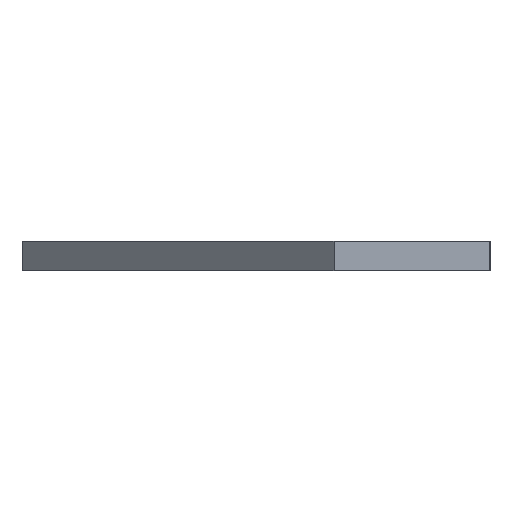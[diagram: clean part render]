
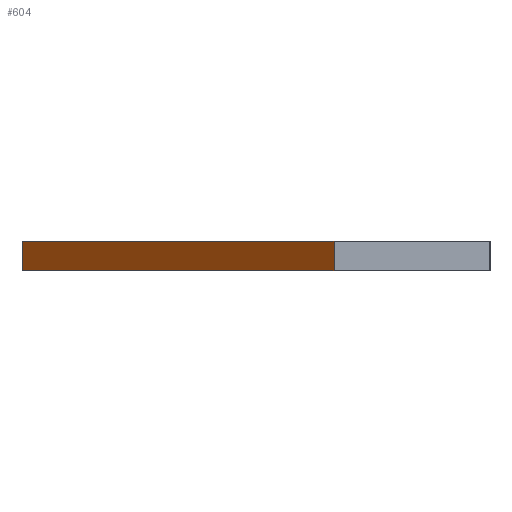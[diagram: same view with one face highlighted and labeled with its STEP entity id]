
A CAD part, left-side view. The second image highlights one B-rep face of the part: STEP entity #604.
In plain terms, the highlighted planar face has unit normal (-0.707, 0.707, 0).
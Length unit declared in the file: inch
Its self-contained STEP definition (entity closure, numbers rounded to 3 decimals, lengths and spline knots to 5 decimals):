
#7 = DIRECTION ( 'NONE',  ( 0.707, 0.707, 0. ) ) ;
#30 = CARTESIAN_POINT ( 'NONE',  ( 0.68616, 3.81382, 0. ) ) ;
#49 = ORIENTED_EDGE ( 'NONE', *, *, #719, .T. ) ;
#64 = CARTESIAN_POINT ( 'NONE',  ( 0.68616, 3.81382, 0.375 ) ) ;
#78 = DIRECTION ( 'NONE',  ( -0.707, -0.707, 0. ) ) ;
#79 = VERTEX_POINT ( 'NONE', #763 ) ;
#97 = CARTESIAN_POINT ( 'NONE',  ( -3.31384, -0.18618, 0. ) ) ;
#106 = LINE ( 'NONE', #64, #865 ) ;
#138 = VERTEX_POINT ( 'NONE', #97 ) ;
#236 = EDGE_CURVE ( 'NONE', #79, #138, #854, .T. ) ;
#257 = VECTOR ( 'NONE', #476, 39.37008 ) ;
#278 = DIRECTION ( 'NONE',  ( -0.707, -0.707, 0. ) ) ;
#281 = VECTOR ( 'NONE', #935, 39.37008 ) ;
#306 = LINE ( 'NONE', #956, #281 ) ;
#308 = PLANE ( 'NONE',  #421 ) ;
#356 = EDGE_CURVE ( 'NONE', #921, #691, #306, .T. ) ;
#417 = CARTESIAN_POINT ( 'NONE',  ( 0.68616, 3.81382, 0.375 ) ) ;
#421 = AXIS2_PLACEMENT_3D ( 'NONE', #417, #471, #7 ) ;
#442 = VECTOR ( 'NONE', #278, 39.37008 ) ;
#445 = CARTESIAN_POINT ( 'NONE',  ( 0.68616, 3.81382, 0. ) ) ;
#471 = DIRECTION ( 'NONE',  ( 0.707, -0.707, 0. ) ) ;
#476 = DIRECTION ( 'NONE',  ( 0., 0., -1. ) ) ;
#485 = LINE ( 'NONE', #30, #442 ) ;
#500 = CARTESIAN_POINT ( 'NONE',  ( -3.31384, -0.18618, 0.375 ) ) ;
#542 = EDGE_LOOP ( 'NONE', ( #49, #625, #912, #965 ) ) ;
#604 = ADVANCED_FACE ( 'NONE', ( #796 ), #308, .F. ) ;
#625 = ORIENTED_EDGE ( 'NONE', *, *, #236, .F. ) ;
#691 = VERTEX_POINT ( 'NONE', #445 ) ;
#710 = EDGE_CURVE ( 'NONE', #921, #79, #106, .T. ) ;
#719 = EDGE_CURVE ( 'NONE', #691, #138, #485, .T. ) ;
#763 = CARTESIAN_POINT ( 'NONE',  ( -3.31384, -0.18618, 0.375 ) ) ;
#796 = FACE_OUTER_BOUND ( 'NONE', #542, .T. ) ;
#854 = LINE ( 'NONE', #500, #257 ) ;
#865 = VECTOR ( 'NONE', #78, 39.37008 ) ;
#884 = CARTESIAN_POINT ( 'NONE',  ( 0.68616, 3.81382, 0.375 ) ) ;
#912 = ORIENTED_EDGE ( 'NONE', *, *, #710, .F. ) ;
#921 = VERTEX_POINT ( 'NONE', #884 ) ;
#935 = DIRECTION ( 'NONE',  ( 0., 0., -1. ) ) ;
#956 = CARTESIAN_POINT ( 'NONE',  ( 0.68616, 3.81382, 0.375 ) ) ;
#965 = ORIENTED_EDGE ( 'NONE', *, *, #356, .T. ) ;
